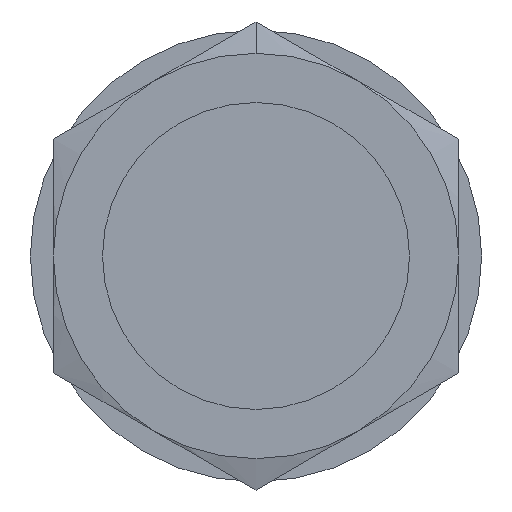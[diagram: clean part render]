
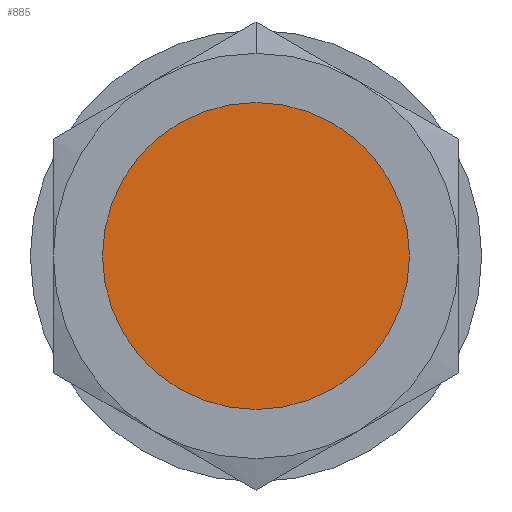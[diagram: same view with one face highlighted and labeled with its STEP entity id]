
A CAD part, front view. The second image highlights one B-rep face of the part: STEP entity #885.
In plain terms, the highlighted planar face has unit normal (0, -1, 0).
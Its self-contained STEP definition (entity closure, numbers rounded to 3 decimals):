
#48 = DIRECTION ( 'NONE',  ( 0., 0., -1. ) ) ;
#60 = VERTEX_POINT ( 'NONE', #821 ) ;
#136 = CIRCLE ( 'NONE', #1395, 8.331 ) ;
#187 = CIRCLE ( 'NONE', #420, 8.331 ) ;
#348 = DIRECTION ( 'NONE',  ( 0., -1., 0. ) ) ;
#420 = AXIS2_PLACEMENT_3D ( 'NONE', #1451, #754, #891 ) ;
#506 = EDGE_LOOP ( 'NONE', ( #1171, #837 ) ) ;
#674 = CARTESIAN_POINT ( 'NONE',  ( 8.331, -5.9, 0. ) ) ;
#754 = DIRECTION ( 'NONE',  ( 0., -1., 0. ) ) ;
#821 = CARTESIAN_POINT ( 'NONE',  ( 0., -5.9, 8.331 ) ) ;
#837 = ORIENTED_EDGE ( 'NONE', *, *, #1135, .T. ) ;
#860 = CARTESIAN_POINT ( 'NONE',  ( 0., -5.9, -8.331 ) ) ;
#885 = ADVANCED_FACE ( 'NONE', ( #1804 ), #1209, .F. ) ;
#891 = DIRECTION ( 'NONE',  ( 0., 0., -1. ) ) ;
#916 = AXIS2_PLACEMENT_3D ( 'NONE', #674, #1346, #945 ) ;
#945 = DIRECTION ( 'NONE',  ( 1., 0., 0. ) ) ;
#1087 = VERTEX_POINT ( 'NONE', #860 ) ;
#1135 = EDGE_CURVE ( 'NONE', #60, #1087, #187, .T. ) ;
#1171 = ORIENTED_EDGE ( 'NONE', *, *, #1817, .T. ) ;
#1209 = PLANE ( 'NONE',  #916 ) ;
#1346 = DIRECTION ( 'NONE',  ( 0., 1., 0. ) ) ;
#1395 = AXIS2_PLACEMENT_3D ( 'NONE', #1461, #348, #48 ) ;
#1451 = CARTESIAN_POINT ( 'NONE',  ( 0., -5.9, 0. ) ) ;
#1461 = CARTESIAN_POINT ( 'NONE',  ( 0., -5.9, 0. ) ) ;
#1804 = FACE_OUTER_BOUND ( 'NONE', #506, .T. ) ;
#1817 = EDGE_CURVE ( 'NONE', #1087, #60, #136, .T. ) ;
